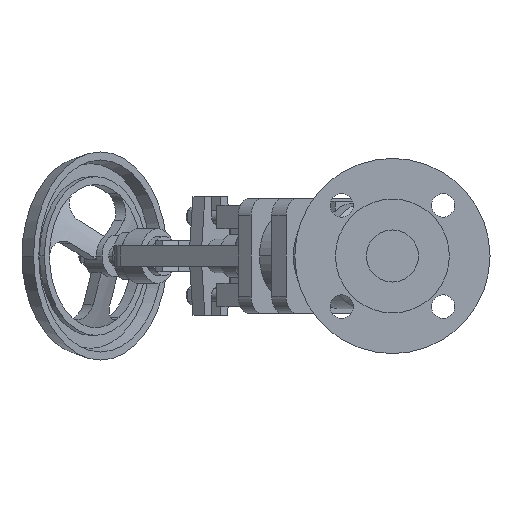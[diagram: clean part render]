
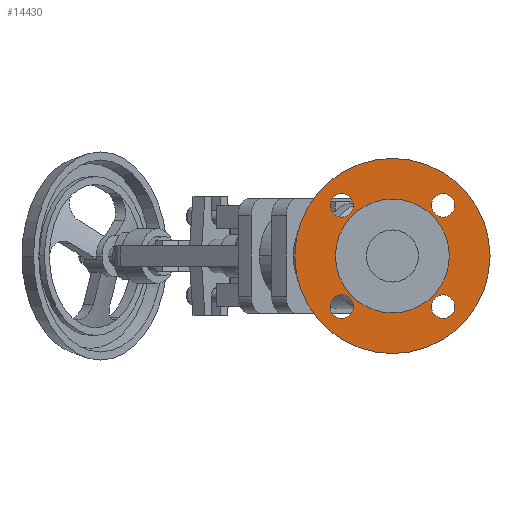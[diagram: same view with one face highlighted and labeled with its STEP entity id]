
A CAD part, left-side view. The second image highlights one B-rep face of the part: STEP entity #14430.
In plain terms, the highlighted planar face has unit normal (-1, 0, 0).
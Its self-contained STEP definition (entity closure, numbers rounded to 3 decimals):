
#3660=CARTESIAN_POINT('',(3.77,-43.76,0.));
#3670=VERTEX_POINT('',#3660);
#3700=CARTESIAN_POINT('',(3.77,0.,0.));
#3710=DIRECTION('',(-1.,0.,0.));
#3720=DIRECTION('',(0.,1.,0.));
#3730=AXIS2_PLACEMENT_3D('',#3700,#3710,#3720);
#3740=CIRCLE('',#3730,43.76);
#3750=CARTESIAN_POINT('',(3.77,43.76,0.));
#3760=VERTEX_POINT('',#3750);
#3770=EDGE_CURVE('',#3760,#3670,#3740,.T.);
#5900=CARTESIAN_POINT('',(3.77,0.,75.));
#5910=VERTEX_POINT('',#5900);
#5960=CARTESIAN_POINT('',(3.77,0.,0.));
#5970=DIRECTION('',(1.,0.,0.));
#5980=DIRECTION('',(0.,0.,-1.));
#5990=AXIS2_PLACEMENT_3D('',#5960,#5970,#5980);
#6000=CIRCLE('',#5990,75.);
#6010=CARTESIAN_POINT('',(3.77,0.,-75.));
#6020=VERTEX_POINT('',#6010);
#6030=EDGE_CURVE('',#6020,#5910,#6000,.T.);
#6390=CARTESIAN_POINT('',(3.77,38.891,-47.891));
#6400=VERTEX_POINT('',#6390);
#6450=CARTESIAN_POINT('',(3.77,38.891,-38.891));
#6460=DIRECTION('',(-1.,0.,0.));
#6470=DIRECTION('',(0.,0.,-1.));
#6480=AXIS2_PLACEMENT_3D('',#6450,#6460,#6470);
#6490=CIRCLE('',#6480,9.);
#6500=CARTESIAN_POINT('',(3.77,38.891,-29.891));
#6510=VERTEX_POINT('',#6500);
#6520=EDGE_CURVE('',#6510,#6400,#6490,.T.);
#6880=CARTESIAN_POINT('',(3.77,-38.891,-29.891));
#6890=VERTEX_POINT('',#6880);
#6940=CARTESIAN_POINT('',(3.77,-38.891,-38.891));
#6950=DIRECTION('',(-1.,0.,0.));
#6960=DIRECTION('',(0.,0.,-1.));
#6970=AXIS2_PLACEMENT_3D('',#6940,#6950,#6960);
#6980=CIRCLE('',#6970,9.);
#6990=CARTESIAN_POINT('',(3.77,-38.891,-47.891));
#7000=VERTEX_POINT('',#6990);
#7010=EDGE_CURVE('',#7000,#6890,#6980,.T.);
#7370=CARTESIAN_POINT('',(3.77,38.891,47.891));
#7380=VERTEX_POINT('',#7370);
#7560=CARTESIAN_POINT('',(3.77,38.891,29.891));
#7570=VERTEX_POINT('',#7560);
#7600=CARTESIAN_POINT('',(3.77,38.891,38.891));
#7610=DIRECTION('',(-1.,0.,0.));
#7620=DIRECTION('',(0.,0.,-1.));
#7630=AXIS2_PLACEMENT_3D('',#7600,#7610,#7620);
#7640=CIRCLE('',#7630,9.);
#7650=EDGE_CURVE('',#7380,#7570,#7640,.T.);
#7860=CARTESIAN_POINT('',(3.77,-38.891,47.891));
#7870=VERTEX_POINT('',#7860);
#8050=CARTESIAN_POINT('',(3.77,-38.891,29.891));
#8060=VERTEX_POINT('',#8050);
#8090=CARTESIAN_POINT('',(3.77,-38.891,38.891));
#8100=DIRECTION('',(-1.,0.,0.));
#8110=DIRECTION('',(0.,0.,-1.));
#8120=AXIS2_PLACEMENT_3D('',#8090,#8100,#8110);
#8130=CIRCLE('',#8120,9.);
#8140=EDGE_CURVE('',#7870,#8060,#8130,.T.);
#14080=CARTESIAN_POINT('',(3.77,0.,0.));
#14090=DIRECTION('',(1.,0.,0.));
#14100=DIRECTION('',(0.,0.,-1.));
#14110=AXIS2_PLACEMENT_3D('',#14080,#14090,#14100);
#14120=PLANE('',#14110);
#14130=EDGE_CURVE('',#8060,#7870,#8130,.T.);
#14140=ORIENTED_EDGE('',*,*,#14130,.F.);
#14150=ORIENTED_EDGE('',*,*,#8140,.F.);
#14160=EDGE_LOOP('',(#14150,#14140));
#14170=FACE_BOUND('',#14160,.T.);
#14180=EDGE_CURVE('',#7570,#7380,#7640,.T.);
#14190=ORIENTED_EDGE('',*,*,#14180,.F.);
#14200=ORIENTED_EDGE('',*,*,#7650,.F.);
#14210=EDGE_LOOP('',(#14200,#14190));
#14220=FACE_BOUND('',#14210,.T.);
#14230=EDGE_CURVE('',#6890,#7000,#6980,.T.);
#14240=ORIENTED_EDGE('',*,*,#14230,.F.);
#14250=ORIENTED_EDGE('',*,*,#7010,.F.);
#14260=EDGE_LOOP('',(#14250,#14240));
#14270=FACE_BOUND('',#14260,.T.);
#14280=EDGE_CURVE('',#6400,#6510,#6490,.T.);
#14290=ORIENTED_EDGE('',*,*,#14280,.F.);
#14300=ORIENTED_EDGE('',*,*,#6520,.F.);
#14310=EDGE_LOOP('',(#14300,#14290));
#14320=FACE_BOUND('',#14310,.T.);
#14330=EDGE_CURVE('',#5910,#6020,#6000,.T.);
#14340=ORIENTED_EDGE('',*,*,#14330,.F.);
#14350=ORIENTED_EDGE('',*,*,#6030,.F.);
#14360=EDGE_LOOP('',(#14350,#14340));
#14370=FACE_OUTER_BOUND('',#14360,.T.);
#14380=EDGE_CURVE('',#3670,#3760,#3740,.T.);
#14390=ORIENTED_EDGE('',*,*,#14380,.F.);
#14400=ORIENTED_EDGE('',*,*,#3770,.F.);
#14410=EDGE_LOOP('',(#14400,#14390));
#14420=FACE_BOUND('',#14410,.T.);
#14430=ADVANCED_FACE('',(#14170,#14220,#14270,#14320,#14370,#14420),
#14120,.F.);
